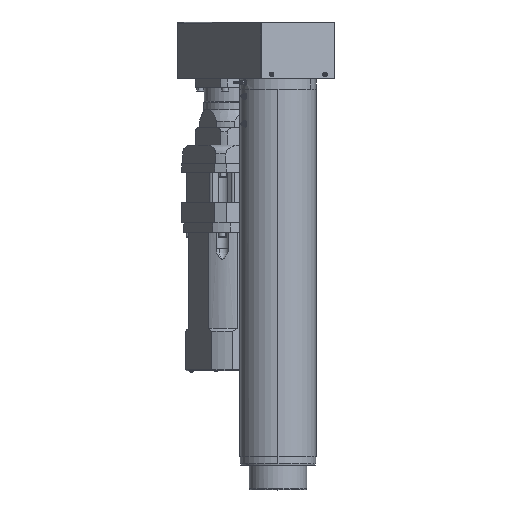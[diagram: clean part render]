
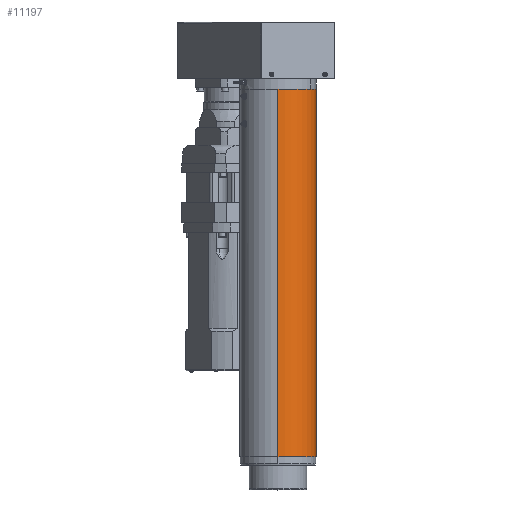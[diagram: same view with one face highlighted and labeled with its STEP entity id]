
A CAD part, top view. The second image highlights one B-rep face of the part: STEP entity #11197.
In plain terms, the highlighted cylindrical face has radius 89 mm (diameter 178 mm), a partial arc.
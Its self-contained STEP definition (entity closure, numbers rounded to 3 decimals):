
#1744 = VERTEX_POINT ( 'NONE', #27227 ) ;
#2519 = EDGE_CURVE ( 'NONE', #19987, #40144, #9701, .T. ) ;
#3934 = VERTEX_POINT ( 'NONE', #41045 ) ;
#5034 = FACE_OUTER_BOUND ( 'NONE', #34237, .T. ) ;
#8314 = EDGE_CURVE ( 'NONE', #3934, #1744, #41761, .T. ) ;
#9701 = LINE ( 'NONE', #69093, #40475 ) ;
#11197 = ADVANCED_FACE ( 'NONE', ( #5034 ), #37497, .T. ) ;
#11330 = DIRECTION ( 'NONE',  ( 0., -1., 0. ) ) ;
#15775 = DIRECTION ( 'NONE',  ( 0., 0., -1. ) ) ;
#17403 = ORIENTED_EDGE ( 'NONE', *, *, #36450, .T. ) ;
#19987 = VERTEX_POINT ( 'NONE', #66046 ) ;
#20180 = CIRCLE ( 'NONE', #69877, 89. ) ;
#21050 = CARTESIAN_POINT ( 'NONE',  ( 0., 880., 0. ) ) ;
#22454 = AXIS2_PLACEMENT_3D ( 'NONE', #25408, #30738, #56566 ) ;
#25408 = CARTESIAN_POINT ( 'NONE',  ( 0., 20., 0. ) ) ;
#27227 = CARTESIAN_POINT ( 'NONE',  ( 0., 20., -89. ) ) ;
#30738 = DIRECTION ( 'NONE',  ( 0., -1., 0. ) ) ;
#30786 = DIRECTION ( 'NONE',  ( 0., -1., 0. ) ) ;
#34237 = EDGE_LOOP ( 'NONE', ( #17403, #56017, #41263, #35071 ) ) ;
#34385 = AXIS2_PLACEMENT_3D ( 'NONE', #69648, #11330, #65723 ) ;
#35071 = ORIENTED_EDGE ( 'NONE', *, *, #8314, .F. ) ;
#36450 = EDGE_CURVE ( 'NONE', #3934, #19987, #20180, .T. ) ;
#37497 = CYLINDRICAL_SURFACE ( 'NONE', #34385, 89. ) ;
#40144 = VERTEX_POINT ( 'NONE', #53209 ) ;
#40475 = VECTOR ( 'NONE', #53183, 1000. ) ;
#41045 = CARTESIAN_POINT ( 'NONE',  ( 0., 880., -89. ) ) ;
#41263 = ORIENTED_EDGE ( 'NONE', *, *, #61565, .F. ) ;
#41761 = LINE ( 'NONE', #69335, #65786 ) ;
#48268 = DIRECTION ( 'NONE',  ( 0., -1., 0. ) ) ;
#52953 = CIRCLE ( 'NONE', #22454, 89. ) ;
#53183 = DIRECTION ( 'NONE',  ( 0., -1., 0. ) ) ;
#53209 = CARTESIAN_POINT ( 'NONE',  ( 0., 20., 89. ) ) ;
#56017 = ORIENTED_EDGE ( 'NONE', *, *, #2519, .T. ) ;
#56566 = DIRECTION ( 'NONE',  ( 0., 0., -1. ) ) ;
#61565 = EDGE_CURVE ( 'NONE', #1744, #40144, #52953, .T. ) ;
#65723 = DIRECTION ( 'NONE',  ( 0., 0., -1. ) ) ;
#65786 = VECTOR ( 'NONE', #30786, 1000. ) ;
#66046 = CARTESIAN_POINT ( 'NONE',  ( 0., 880., 89. ) ) ;
#69093 = CARTESIAN_POINT ( 'NONE',  ( 0., 0., 89. ) ) ;
#69335 = CARTESIAN_POINT ( 'NONE',  ( 0., 0., -89. ) ) ;
#69648 = CARTESIAN_POINT ( 'NONE',  ( 0., 0., 0. ) ) ;
#69877 = AXIS2_PLACEMENT_3D ( 'NONE', #21050, #48268, #15775 ) ;
